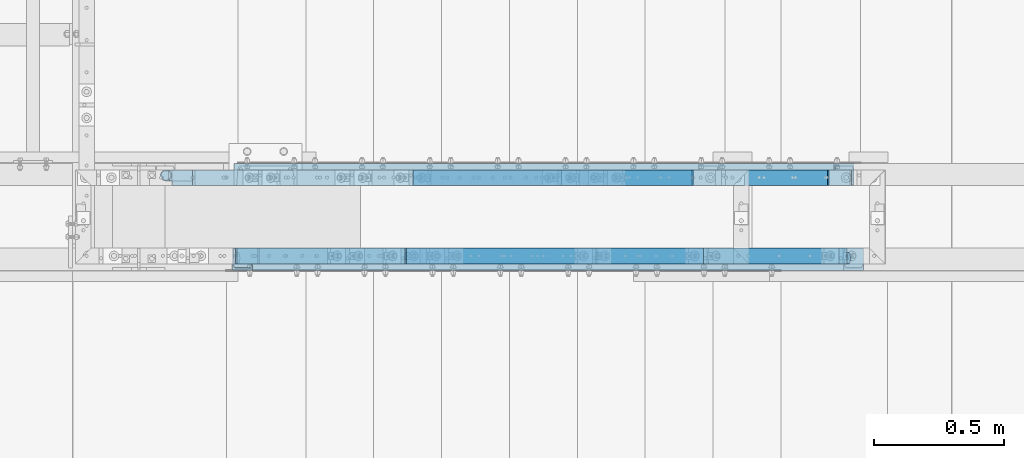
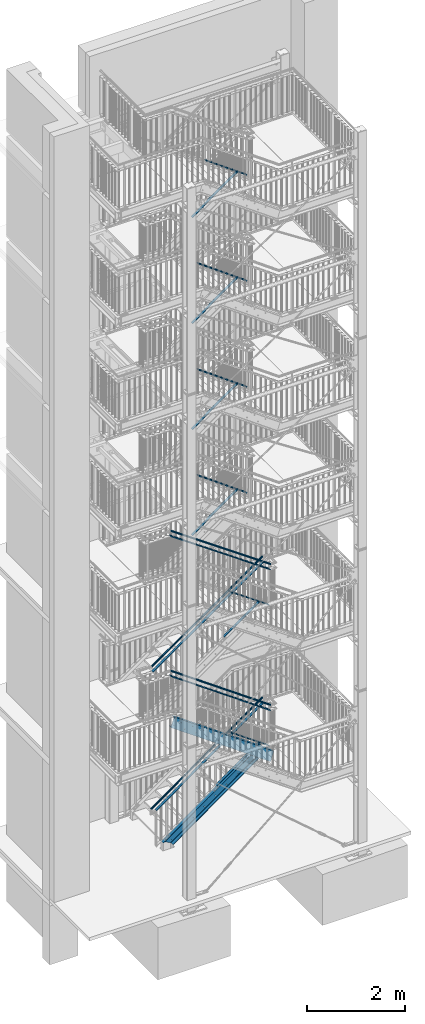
# One storey, part 122 of 825: 22 members, 43 openings.
"""IFC2X3 building model written with IfcOpenShell, lengths in millimetres."""

from ifc_helpers import new_model, entity, si_unit, converted_unit, frame, frame_2d, origin, origin_with_axes, origin_2d, origin_2d_with_axis, place, context, project, spatial, rectangle, circle, hollow_circle, u_section, extrude, clip, halfspace, material, element, save


model = new_model("IFC2X3")

# Units and contexts
model_context = context("Model", 3, precision=1e-09, world=origin_with_axes())
ifc_project = project(units=[si_unit("LENGTHUNIT", "METRE", prefix="MILLI"), si_unit("AREAUNIT", "SQUARE_METRE"), si_unit("VOLUMEUNIT", "CUBIC_METRE"), converted_unit("PLANEANGLEUNIT", "DEGREE", entity("IfcPlaneAngleMeasure", 0.01745329), si_unit("PLANEANGLEUNIT", "RADIAN"), dimensions=[0, 0, 0, 0, 0, 0, 0])], contexts=[model_context])

# Site, building, storey
site_placement = place(None, origin_with_axes())
site = spatial("IfcSite", under=ifc_project, at=site_placement, Name="Cnopf'sche Kinderklinik", CompositionType="ELEMENT")
building_placement = place(site_placement, origin_with_axes())
building = spatial("IfcBuilding", under=site, at=building_placement, Name="Struktur 1", CompositionType="ELEMENT")
storey_placement = place(building_placement, origin_with_axes())
storey = spatial("IfcBuildingStorey", under=building, at=storey_placement, Name="Default Storey", CompositionType="ELEMENT", Elevation=0.0)

# Member, openings
ifc_material = material(Name="S235JR")
member_1_placement = place(None, frame((5064.64560131, 6124.436971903, 285.297508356), z_axis=(-0.814635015, 0.0, -0.579973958), x_axis=(0.0, -1.0, 0.0)))
member_1 = element("IfcMember", 1, at=member_1_placement, inside=storey, material=ifc_material, Name="Stringer#2", ObjectType="Stringer#2", context=model_context, shape_type="Clipping", body=[
    clip(clip(extrude(u_section(Depth=240.0, FlangeWidth=85.0, WebThickness=9.5, FlangeThickness=13.0, FilletRadius=13.0, EdgeRadius=6.5, FlangeSlope=4.574, at=frame_2d((20.2, 0.0))), origin(), (0.0, 0.0, -1.0), 3359.765077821), halfspace(frame((6124.436971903, 321.948595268, -3164.680907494), z_axis=(0.0, 0.304437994, 0.952532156), x_axis=(1.0, 0.0, 0.0)), True)), halfspace(frame((6124.436971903, 4023.331766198, 1734.317054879), z_axis=(0.0, 0.458271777, -0.888812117), x_axis=(-1.0, 0.0, 0.0)), True)),
])
opening_1_placement = place(member_1_placement, frame((-22.8, 54.89598563, -931.59025728), z_axis=(1.0, 0.0, 0.0), x_axis=(0.0, -0.579973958, -0.814635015)))
element("IfcOpeningElement", 2, at=opening_1_placement, cuts=member_1, ObjectType="Opening", context=model_context, shape_type="SweptSolid", body=[
    extrude(circle(Radius=7.001, at=origin_2d_with_axis()), origin(), (0.0, 0.0, 1.0), 10.5),
])
opening_2_placement = place(member_1_placement, frame((-22.8, -49.49932673, -2674.031240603), z_axis=(1.0, 0.0, 0.0), x_axis=(0.0, -0.579973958, -0.814635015)))
element("IfcOpeningElement", 3, at=opening_2_placement, cuts=member_1, ObjectType="Opening", context=model_context, shape_type="SweptSolid", body=[
    extrude(circle(Radius=7.001, at=origin_2d_with_axis()), origin(), (0.0, 0.0, 1.0), 10.5),
])
opening_3_placement = place(member_1_placement, frame((-22.8, -49.49932673, -1397.385896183), z_axis=(1.0, 0.0, 0.0), x_axis=(0.0, -0.579973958, -0.814635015)))
element("IfcOpeningElement", 4, at=opening_3_placement, cuts=member_1, ObjectType="Opening", context=model_context, shape_type="SweptSolid", body=[
    extrude(circle(Radius=7.001, at=origin_2d_with_axis()), origin(), (0.0, 0.0, 1.0), 10.5),
])
opening_4_placement = place(member_1_placement, frame((-22.8, 54.89598563, -612.428921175), z_axis=(1.0, 0.0, 0.0), x_axis=(0.0, -0.579973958, -0.814635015)))
element("IfcOpeningElement", 5, at=opening_4_placement, cuts=member_1, ObjectType="Opening", context=model_context, shape_type="SweptSolid", body=[
    extrude(circle(Radius=7.001, at=origin_2d_with_axis()), origin(), (0.0, 0.0, 1.0), 10.5),
])
opening_5_placement = place(member_1_placement, frame((-22.8, 54.89598563, -2208.2356017), z_axis=(1.0, 0.0, 0.0), x_axis=(0.0, -0.579973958, -0.814635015)))
element("IfcOpeningElement", 6, at=opening_5_placement, cuts=member_1, ObjectType="Opening", context=model_context, shape_type="SweptSolid", body=[
    extrude(circle(Radius=7.001, at=origin_2d_with_axis()), origin(), (0.0, 0.0, 1.0), 10.5),
])
opening_6_placement = place(member_1_placement, frame((-22.8, -49.49932673, -1078.224560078), z_axis=(1.0, 0.0, 0.0), x_axis=(0.0, -0.579973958, -0.814635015)))
element("IfcOpeningElement", 7, at=opening_6_placement, cuts=member_1, ObjectType="Opening", context=model_context, shape_type="SweptSolid", body=[
    extrude(circle(Radius=7.001, at=origin_2d_with_axis()), origin(), (0.0, 0.0, 1.0), 10.5),
])
opening_7_placement = place(member_1_placement, frame((-22.8, -49.49932673, -1716.547232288), z_axis=(1.0, 0.0, 0.0), x_axis=(0.0, -0.579973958, -0.814635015)))
element("IfcOpeningElement", 8, at=opening_7_placement, cuts=member_1, ObjectType="Opening", context=model_context, shape_type="SweptSolid", body=[
    extrude(circle(Radius=7.001, at=origin_2d_with_axis()), origin(), (0.0, 0.0, 1.0), 10.5),
])
opening_8_placement = place(member_1_placement, frame((-22.8, -49.49932673, -2993.192576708), z_axis=(1.0, 0.0, 0.0), x_axis=(0.0, -0.579973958, -0.814635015)))
element("IfcOpeningElement", 9, at=opening_8_placement, cuts=member_1, ObjectType="Opening", context=model_context, shape_type="SweptSolid", body=[
    extrude(circle(Radius=7.001, at=origin_2d_with_axis()), origin(), (0.0, 0.0, 1.0), 10.5),
])
opening_9_placement = place(member_1_placement, frame((-22.8, -49.49932673, -439.901887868), z_axis=(1.0, 0.0, 0.0), x_axis=(0.0, -0.579973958, -0.814635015)))
element("IfcOpeningElement", 10, at=opening_9_placement, cuts=member_1, ObjectType="Opening", context=model_context, shape_type="SweptSolid", body=[
    extrude(circle(Radius=7.001, at=origin_2d_with_axis()), origin(), (0.0, 0.0, 1.0), 10.5),
])
opening_10_placement = place(member_1_placement, frame((-22.8, 54.89598563, -2527.396937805), z_axis=(1.0, 0.0, 0.0), x_axis=(0.0, -0.579973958, -0.814635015)))
element("IfcOpeningElement", 11, at=opening_10_placement, cuts=member_1, ObjectType="Opening", context=model_context, shape_type="SweptSolid", body=[
    extrude(circle(Radius=7.001, at=origin_2d_with_axis()), origin(), (0.0, 0.0, 1.0), 10.5),
])
opening_11_placement = place(member_1_placement, frame((-22.8, -49.49932673, -2354.869904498), z_axis=(1.0, 0.0, 0.0), x_axis=(0.0, -0.579973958, -0.814635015)))
element("IfcOpeningElement", 12, at=opening_11_placement, cuts=member_1, ObjectType="Opening", context=model_context, shape_type="SweptSolid", body=[
    extrude(circle(Radius=7.001, at=origin_2d_with_axis()), origin(), (0.0, 0.0, 1.0), 10.5),
])
opening_12_placement = place(member_1_placement, frame((-22.8, 54.89598563, -1889.074265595), z_axis=(1.0, 0.0, 0.0), x_axis=(0.0, -0.579973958, -0.814635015)))
element("IfcOpeningElement", 13, at=opening_12_placement, cuts=member_1, ObjectType="Opening", context=model_context, shape_type="SweptSolid", body=[
    extrude(circle(Radius=7.001, at=origin_2d_with_axis()), origin(), (0.0, 0.0, 1.0), 10.5),
])
opening_13_placement = place(member_1_placement, frame((-22.8, -49.49932673, -2035.708568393), z_axis=(1.0, 0.0, 0.0), x_axis=(0.0, -0.579973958, -0.814635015)))
element("IfcOpeningElement", 14, at=opening_13_placement, cuts=member_1, ObjectType="Opening", context=model_context, shape_type="SweptSolid", body=[
    extrude(circle(Radius=7.001, at=origin_2d_with_axis()), origin(), (0.0, 0.0, 1.0), 10.5),
])
opening_14_placement = place(member_1_placement, frame((-22.8, 54.89598563, -2846.55827391), z_axis=(1.0, 0.0, 0.0), x_axis=(0.0, -0.579973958, -0.814635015)))
element("IfcOpeningElement", 15, at=opening_14_placement, cuts=member_1, ObjectType="Opening", context=model_context, shape_type="SweptSolid", body=[
    extrude(circle(Radius=7.001, at=origin_2d_with_axis()), origin(), (0.0, 0.0, 1.0), 10.5),
])
opening_15_placement = place(member_1_placement, frame((-22.8, -49.49932673, -759.063223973), z_axis=(1.0, 0.0, 0.0), x_axis=(0.0, -0.579973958, -0.814635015)))
element("IfcOpeningElement", 16, at=opening_15_placement, cuts=member_1, ObjectType="Opening", context=model_context, shape_type="SweptSolid", body=[
    extrude(circle(Radius=7.001, at=origin_2d_with_axis()), origin(), (0.0, 0.0, 1.0), 10.5),
])
opening_16_placement = place(member_1_placement, frame((-22.8, 54.89598563, -1250.751593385), z_axis=(1.0, 0.0, 0.0), x_axis=(0.0, -0.579973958, -0.814635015)))
element("IfcOpeningElement", 17, at=opening_16_placement, cuts=member_1, ObjectType="Opening", context=model_context, shape_type="SweptSolid", body=[
    extrude(circle(Radius=7.001, at=origin_2d_with_axis()), origin(), (0.0, 0.0, 1.0), 10.5),
])
opening_17_placement = place(member_1_placement, frame((-22.8, 54.89598563, -1569.91292949), z_axis=(1.0, 0.0, 0.0), x_axis=(0.0, -0.579973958, -0.814635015)))
element("IfcOpeningElement", 18, at=opening_17_placement, cuts=member_1, ObjectType="Opening", context=model_context, shape_type="SweptSolid", body=[
    extrude(circle(Radius=7.001, at=origin_2d_with_axis()), origin(), (0.0, 0.0, 1.0), 10.5),
])
opening_18_placement = place(member_1_placement, frame((32.7, 120.5, -458.116797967), z_axis=(0.0, 1.0, 0.0), x_axis=(-1.0, 0.0, 0.0)))
element("IfcOpeningElement", 19, at=opening_18_placement, cuts=member_1, ObjectType="Opening", context=model_context, shape_type="SweptSolid", body=[
    extrude(circle(Radius=7.001, at=frame_2d((0.0, -7.001), x_axis=(1.0, 0.0))), origin(), (0.0, 0.0, -1.0), 14.0),
])
opening_19_placement = place(member_1_placement, frame((32.7, 120.5, -358.116797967), z_axis=(0.0, 1.0, 0.0), x_axis=(-1.0, 0.0, 0.0)))
element("IfcOpeningElement", 20, at=opening_19_placement, cuts=member_1, ObjectType="Opening", context=model_context, shape_type="SweptSolid", body=[
    extrude(circle(Radius=7.001, at=frame_2d((0.0, -7.001), x_axis=(1.0, 0.0))), origin(), (0.0, 0.0, -1.0), 14.0),
])
opening_20_placement = place(member_1_placement, frame((32.7, 120.5, -1866.722821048), z_axis=(0.0, 1.0, 0.0), x_axis=(-1.0, 0.0, 0.0)))
element("IfcOpeningElement", 21, at=opening_20_placement, cuts=member_1, ObjectType="Opening", context=model_context, shape_type="SweptSolid", body=[
    extrude(circle(Radius=7.001, at=frame_2d((0.0, -7.001), x_axis=(1.0, 0.0))), origin(), (0.0, 0.0, -1.0), 14.0),
])
opening_21_placement = place(member_1_placement, frame((32.7, 120.5, -1766.722821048), z_axis=(0.0, 1.0, 0.0), x_axis=(-1.0, 0.0, 0.0)))
element("IfcOpeningElement", 22, at=opening_21_placement, cuts=member_1, ObjectType="Opening", context=model_context, shape_type="SweptSolid", body=[
    extrude(circle(Radius=7.001, at=frame_2d((0.0, -7.001), x_axis=(1.0, 0.0))), origin(), (0.0, 0.0, -1.0), 14.0),
])

# Members
member_2_placement = place(None, frame((4933.622473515, 6100.536971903, 1439.321699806), z_axis=(-0.814635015, 0.0, -0.579973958), x_axis=(0.579973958, 0.0, -0.814635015)))
element("IfcMember", 23, at=member_2_placement, inside=storey, material=ifc_material, Name="Gel?nder", ObjectType="Gel?nder", context=model_context, shape_type="Clipping", body=[
    clip(clip(extrude(hollow_circle(Radius=21.2, WallThickness=3.2, at=origin_2d()), origin(), (0.0, 0.0, -1.0), 3275.984752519), halfspace(frame((816.100663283, 6100.536971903, -2983.675065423), z_axis=(-0.304437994, 0.0, 0.952532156), x_axis=(0.0, 1.0, 0.0)), True)), halfspace(frame((-3324.976639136, 6100.536971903, 1680.625855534), z_axis=(-0.458271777, 0.0, -0.888812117), x_axis=(0.0, -1.0, 0.0)), True)),
])
member_3_placement = place(None, frame((6479.613983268, 6091.736971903, 1519.770361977), z_axis=(-0.814635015, 0.0, -0.579973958), x_axis=(0.579973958, 0.0, -0.814635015)))
element("IfcMember", 24, at=member_3_placement, inside=storey, material=ifc_material, Name="Railing_Kneerail_Stair#2", ObjectType="Railing_Kneerail_Stair#2", context=model_context, shape_type="SweptSolid", body=[
    extrude(rectangle(XDim=10.0, YDim=60.0, at=origin_2d()), origin(), (0.0, 0.0, -1.0), 1250.668990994),
])
member_4_placement = place(None, frame((4950.988825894, 6100.536971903, 4968.914684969), z_axis=(-0.818063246, 0.0, -0.575128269), x_axis=(0.575128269, 0.0, -0.818063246)))
element("IfcMember", 25, at=member_4_placement, inside=storey, material=ifc_material, Name="Gel?nder", ObjectType="Gel?nder", context=model_context, shape_type="Clipping", body=[
    clip(clip(extrude(hollow_circle(Radius=21.2, WallThickness=3.2, at=origin_2d()), origin(), (0.0, 0.0, -1.0), 3241.129789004), halfspace(frame((4016.163485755, 6100.536971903, -1939.205143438), z_axis=(-0.301609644, 0.0, 0.953431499), x_axis=(0.0, 1.0, 0.0)), True)), halfspace(frame((3102.216720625, 6100.536971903, 949.912137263), z_axis=(0.301609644, 0.0, -0.953431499), x_axis=(0.0, -1.0, 0.0)), True)),
])
member_5_placement = place(None, frame((6655.422711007, 6091.736971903, 5146.649770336), z_axis=(-0.818063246, 0.0, -0.575128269), x_axis=(0.575128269, 0.0, -0.818063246)))
element("IfcMember", 26, at=member_5_placement, inside=storey, material=ifc_material, Name="Railing_Kneerail_Stair#4", ObjectType="Railing_Kneerail_Stair#4", context=model_context, shape_type="SweptSolid", body=[
    extrude(rectangle(XDim=10.0, YDim=60.0, at=origin_2d()), origin(), (0.0, 0.0, -1.0), 1029.91856601),
])
member_6_placement = place(None, frame((5909.643631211, 6091.736971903, 7926.792537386), z_axis=(-0.810350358, 0.0, -0.585945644), x_axis=(0.585945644, 0.0, -0.810350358)))
element("IfcMember", 27, at=member_6_placement, inside=storey, material=ifc_material, Name="Railing_Kneerail_Stair#3", ObjectType="Railing_Kneerail_Stair#3", context=model_context, shape_type="SweptSolid", body=[
    extrude(rectangle(XDim=10.0, YDim=60.0, at=origin_2d()), origin(), (0.0, 0.0, -1.0), 1319.677384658),
])
member_7_placement = place(None, frame((5909.639972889, 6091.736971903, 10557.813258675), z_axis=(-0.810878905, 0.0, -0.585213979), x_axis=(0.585213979, 0.0, -0.810878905)))
element("IfcMember", 28, at=member_7_placement, inside=storey, material=ifc_material, Name="Railing_Kneerail_Stair#3", ObjectType="Railing_Kneerail_Stair#3", context=model_context, shape_type="SweptSolid", body=[
    extrude(rectangle(XDim=10.0, YDim=60.0, at=origin_2d()), origin(), (0.0, 0.0, -1.0), 1318.733255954),
])
member_8_placement = place(None, frame((5909.645822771, 6091.736971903, 13186.380138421), z_axis=(-0.810033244, 0.0, -0.586383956), x_axis=(0.586383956, 0.0, -0.810033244)))
element("IfcMember", 29, at=member_8_placement, inside=storey, material=ifc_material, Name="Railing_Kneerail_Stair#3", ObjectType="Railing_Kneerail_Stair#3", context=model_context, shape_type="SweptSolid", body=[
    extrude(rectangle(XDim=10.0, YDim=60.0, at=origin_2d()), origin(), (0.0, 0.0, -1.0), 1320.244219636),
])
member_9_placement = place(None, frame((5909.634839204, 6091.736971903, 15818.442386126), z_axis=(-0.811618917, 0.0, -0.584187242), x_axis=(0.584187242, 0.0, -0.811618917)))
element("IfcMember", 30, at=member_9_placement, inside=storey, material=ifc_material, Name="Railing_Kneerail_Stair#3", ObjectType="Railing_Kneerail_Stair#3", context=model_context, shape_type="SweptSolid", body=[
    extrude(rectangle(XDim=10.0, YDim=60.0, at=origin_2d()), origin(), (0.0, 0.0, -1.0), 1317.412728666),
])
member_10_placement = place(None, frame((7602.354363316, 5782.936971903, 3302.79772078), z_axis=(0.814635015, 0.0, -0.579973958), x_axis=(-0.579973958, 0.0, -0.814635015)))
element("IfcMember", 31, at=member_10_placement, inside=storey, material=ifc_material, Name="Gel?nder", ObjectType="Gel?nder", context=model_context, shape_type="Clipping", body=[
    clip(clip(extrude(hollow_circle(Radius=21.2, WallThickness=3.2, at=origin_2d()), origin(), (0.0, 0.0, -1.0), 2935.40281845), halfspace(frame((5210.397729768, -5782.936971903, 1633.814350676), z_axis=(0.304437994, 0.0, -0.952532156), x_axis=(0.0, -1.0, 0.0)), True)), halfspace(frame((6043.370805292, -5782.936971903, -972.409756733), z_axis=(-0.304437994, 0.0, 0.952532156), x_axis=(0.0, 1.0, 0.0)), True)),
])
member_11_placement = place(None, frame((7536.314533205, 5791.736971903, 2329.604670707), z_axis=(0.814635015, 0.0, -0.579973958), x_axis=(-0.579973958, 0.0, -0.814635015)))
element("IfcMember", 32, at=member_11_placement, inside=storey, material=ifc_material, Name="Railing_Kneerail_Stair#2", ObjectType="Railing_Kneerail_Stair#2", context=model_context, shape_type="SweptSolid", body=[
    extrude(rectangle(XDim=10.0, YDim=60.0, at=origin_2d()), origin(), (0.0, 0.0, -1.0), 1134.496524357),
])
member_12_placement = place(None, frame((7602.437980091, 5782.936971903, 6796.809421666), z_axis=(0.818063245, 0.0, -0.57512827), x_axis=(-0.57512827, 0.0, -0.818063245)))
element("IfcMember", 33, at=member_12_placement, inside=storey, material=ifc_material, Name="Gel?nder", ObjectType="Gel?nder", context=model_context, shape_type="Clipping", body=[
    clip(clip(extrude(hollow_circle(Radius=21.2, WallThickness=3.2, at=origin_2d()), origin(), (0.0, 0.0, -1.0), 2923.30595161), halfspace(frame((9196.298185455, -5782.936971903, 17.308609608), z_axis=(-0.301609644, 0.0, 0.953431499), x_axis=(0.0, 1.0, 0.0)), True)), halfspace(frame((8373.746157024, -5782.936971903, 2617.513971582), z_axis=(0.301609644, 0.0, -0.953431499), x_axis=(0.0, -1.0, 0.0)), True)),
])
member_13_placement = place(None, frame((7536.338761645, 5791.736971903, 5822.735540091), z_axis=(0.818063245, 0.0, -0.57512827), x_axis=(-0.57512827, 0.0, -0.818063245)))
element("IfcMember", 34, at=member_13_placement, inside=storey, material=ifc_material, Name="Railing_Kneerail_Stair#2", ObjectType="Railing_Kneerail_Stair#2", context=model_context, shape_type="SweptSolid", body=[
    extrude(rectangle(XDim=10.0, YDim=60.0, at=origin_2d()), origin(), (0.0, 0.0, -1.0), 1129.801461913),
])
member_14_placement = place(None, frame((7016.284674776, 5791.736971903, 8785.445298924), z_axis=(0.810350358, 0.0, -0.585945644), x_axis=(-0.585945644, 0.0, -0.810350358)))
element("IfcMember", 35, at=member_14_placement, inside=storey, material=ifc_material, Name="Railing_Kneerail_Stair#2", ObjectType="Railing_Kneerail_Stair#2", context=model_context, shape_type="SweptSolid", body=[
    extrude(rectangle(XDim=10.0, YDim=60.0, at=origin_2d()), origin(), (0.0, 0.0, -1.0), 1402.653842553),
])
member_15_placement = place(None, frame((7016.288333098, 5791.736971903, 11414.834841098), z_axis=(0.810878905, 0.0, -0.585213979), x_axis=(-0.585213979, 0.0, -0.810878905)))
element("IfcMember", 36, at=member_15_placement, inside=storey, material=ifc_material, Name="Railing_Kneerail_Stair#2", ObjectType="Railing_Kneerail_Stair#2", context=model_context, shape_type="SweptSolid", body=[
    extrude(rectangle(XDim=10.0, YDim=60.0, at=origin_2d()), origin(), (0.0, 0.0, -1.0), 1401.748587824),
])
member_16_placement = place(None, frame((7016.282483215, 5791.736971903, 14046.011607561), z_axis=(0.810033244, 0.0, -0.586383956), x_axis=(-0.586383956, 0.0, -0.810033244)))
element("IfcMember", 37, at=member_16_placement, inside=storey, material=ifc_material, Name="Railing_Kneerail_Stair#2", ObjectType="Railing_Kneerail_Stair#2", context=model_context, shape_type="SweptSolid", body=[
    extrude(rectangle(XDim=10.0, YDim=60.0, at=origin_2d()), origin(), (0.0, 0.0, -1.0), 1403.197546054),
])

# Member, openings
member_17_placement = place(None, frame((7774.802623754, 5759.036971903, 1932.719101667), z_axis=(0.814635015, 0.0, -0.579973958), x_axis=(0.0, 1.0, 0.0)))
member_17 = element("IfcMember", 38, at=member_17_placement, inside=storey, material=ifc_material, Name="Stringer#2", ObjectType="Stringer#2", context=model_context, shape_type="Clipping", body=[
    clip(clip(extrude(u_section(Depth=240.0, FlangeWidth=85.0, WebThickness=9.5, FlangeThickness=13.0, FilletRadius=13.0, EdgeRadius=6.5, FlangeSlope=4.574, at=frame_2d((20.2, 0.0))), origin(), (0.0, 0.0, -1.0), 3391.707504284), halfspace(frame((-5759.036971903, -4072.348471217, 1080.284148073), z_axis=(0.0, -0.304437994, -0.952532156), x_axis=(-1.0, 0.0, 0.0)), True)), halfspace(frame((-5759.036971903, -4905.321546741, -1525.939959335), z_axis=(0.0, 0.304437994, 0.952532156), x_axis=(1.0, 0.0, 0.0)), True)),
])
opening_22_placement = place(member_17_placement, frame((-22.8, 54.89598563, -2240.178028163), z_axis=(1.0, 0.0, 0.0), x_axis=(0.0, -0.579973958, -0.814635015)))
element("IfcOpeningElement", 39, at=opening_22_placement, cuts=member_17, ObjectType="Opening", context=model_context, shape_type="SweptSolid", body=[
    extrude(circle(Radius=7.001, at=origin_2d_with_axis()), origin(), (0.0, 0.0, 1.0), 10.5),
])
opening_23_placement = place(member_17_placement, frame((-22.8, 54.89598563, -2559.339364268), z_axis=(1.0, 0.0, 0.0), x_axis=(0.0, -0.579973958, -0.814635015)))
element("IfcOpeningElement", 40, at=opening_23_placement, cuts=member_17, ObjectType="Opening", context=model_context, shape_type="SweptSolid", body=[
    extrude(circle(Radius=7.001, at=origin_2d_with_axis()), origin(), (0.0, 0.0, 1.0), 10.5),
])
opening_24_placement = place(member_17_placement, frame((-22.8, 54.89598563, -1601.855355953), z_axis=(1.0, 0.0, 0.0), x_axis=(0.0, -0.579973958, -0.814635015)))
element("IfcOpeningElement", 41, at=opening_24_placement, cuts=member_17, ObjectType="Opening", context=model_context, shape_type="SweptSolid", body=[
    extrude(circle(Radius=7.001, at=origin_2d_with_axis()), origin(), (0.0, 0.0, 1.0), 10.5),
])
opening_25_placement = place(member_17_placement, frame((-22.8, -49.49932673, -2386.812330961), z_axis=(1.0, 0.0, 0.0), x_axis=(0.0, -0.579973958, -0.814635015)))
element("IfcOpeningElement", 42, at=opening_25_placement, cuts=member_17, ObjectType="Opening", context=model_context, shape_type="SweptSolid", body=[
    extrude(circle(Radius=7.001, at=origin_2d_with_axis()), origin(), (0.0, 0.0, 1.0), 10.5),
])
opening_26_placement = place(member_17_placement, frame((-22.8, 54.89598563, -644.371347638), z_axis=(1.0, 0.0, 0.0), x_axis=(0.0, -0.579973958, -0.814635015)))
element("IfcOpeningElement", 43, at=opening_26_placement, cuts=member_17, ObjectType="Opening", context=model_context, shape_type="SweptSolid", body=[
    extrude(circle(Radius=7.001, at=origin_2d_with_axis()), origin(), (0.0, 0.0, 1.0), 10.5),
])
opening_27_placement = place(member_17_placement, frame((-22.8, -49.49932673, -2067.650994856), z_axis=(1.0, 0.0, 0.0), x_axis=(0.0, -0.579973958, -0.814635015)))
element("IfcOpeningElement", 44, at=opening_27_placement, cuts=member_17, ObjectType="Opening", context=model_context, shape_type="SweptSolid", body=[
    extrude(circle(Radius=7.001, at=origin_2d_with_axis()), origin(), (0.0, 0.0, 1.0), 10.5),
])
opening_28_placement = place(member_17_placement, frame((-22.8, 54.89598563, -2878.500700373), z_axis=(1.0, 0.0, 0.0), x_axis=(0.0, -0.579973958, -0.814635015)))
element("IfcOpeningElement", 45, at=opening_28_placement, cuts=member_17, ObjectType="Opening", context=model_context, shape_type="SweptSolid", body=[
    extrude(circle(Radius=7.001, at=origin_2d_with_axis()), origin(), (0.0, 0.0, 1.0), 10.5),
])
opening_29_placement = place(member_17_placement, frame((-22.8, 54.89598563, -1282.694019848), z_axis=(1.0, 0.0, 0.0), x_axis=(0.0, -0.579973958, -0.814635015)))
element("IfcOpeningElement", 46, at=opening_29_placement, cuts=member_17, ObjectType="Opening", context=model_context, shape_type="SweptSolid", body=[
    extrude(circle(Radius=7.001, at=origin_2d_with_axis()), origin(), (0.0, 0.0, 1.0), 10.5),
])
opening_30_placement = place(member_17_placement, frame((-22.8, -49.49932673, -1748.489658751), z_axis=(1.0, 0.0, 0.0), x_axis=(0.0, -0.579973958, -0.814635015)))
element("IfcOpeningElement", 47, at=opening_30_placement, cuts=member_17, ObjectType="Opening", context=model_context, shape_type="SweptSolid", body=[
    extrude(circle(Radius=7.001, at=origin_2d_with_axis()), origin(), (0.0, 0.0, 1.0), 10.5),
])
opening_31_placement = place(member_17_placement, frame((-22.8, -49.49932673, -791.005650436), z_axis=(1.0, 0.0, 0.0), x_axis=(0.0, -0.579973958, -0.814635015)))
element("IfcOpeningElement", 48, at=opening_31_placement, cuts=member_17, ObjectType="Opening", context=model_context, shape_type="SweptSolid", body=[
    extrude(circle(Radius=7.001, at=origin_2d_with_axis()), origin(), (0.0, 0.0, 1.0), 10.5),
])
opening_32_placement = place(member_17_placement, frame((-22.8, -49.49932673, -1429.328322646), z_axis=(1.0, 0.0, 0.0), x_axis=(0.0, -0.579973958, -0.814635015)))
element("IfcOpeningElement", 49, at=opening_32_placement, cuts=member_17, ObjectType="Opening", context=model_context, shape_type="SweptSolid", body=[
    extrude(circle(Radius=7.001, at=origin_2d_with_axis()), origin(), (0.0, 0.0, 1.0), 10.5),
])
opening_33_placement = place(member_17_placement, frame((-22.8, -49.49932673, -3025.135003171), z_axis=(1.0, 0.0, 0.0), x_axis=(0.0, -0.579973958, -0.814635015)))
element("IfcOpeningElement", 50, at=opening_33_placement, cuts=member_17, ObjectType="Opening", context=model_context, shape_type="SweptSolid", body=[
    extrude(circle(Radius=7.001, at=origin_2d_with_axis()), origin(), (0.0, 0.0, 1.0), 10.5),
])
opening_34_placement = place(member_17_placement, frame((-22.8, -49.49932673, -2705.973667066), z_axis=(1.0, 0.0, 0.0), x_axis=(0.0, -0.579973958, -0.814635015)))
element("IfcOpeningElement", 51, at=opening_34_placement, cuts=member_17, ObjectType="Opening", context=model_context, shape_type="SweptSolid", body=[
    extrude(circle(Radius=7.001, at=origin_2d_with_axis()), origin(), (0.0, 0.0, 1.0), 10.5),
])
opening_35_placement = place(member_17_placement, frame((-22.8, 54.89598563, -963.532683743), z_axis=(1.0, 0.0, 0.0), x_axis=(0.0, -0.579973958, -0.814635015)))
element("IfcOpeningElement", 52, at=opening_35_placement, cuts=member_17, ObjectType="Opening", context=model_context, shape_type="SweptSolid", body=[
    extrude(circle(Radius=7.001, at=origin_2d_with_axis()), origin(), (0.0, 0.0, 1.0), 10.5),
])
opening_36_placement = place(member_17_placement, frame((-22.8, 54.89598563, -1921.016692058), z_axis=(1.0, 0.0, 0.0), x_axis=(0.0, -0.579973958, -0.814635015)))
element("IfcOpeningElement", 53, at=opening_36_placement, cuts=member_17, ObjectType="Opening", context=model_context, shape_type="SweptSolid", body=[
    extrude(circle(Radius=7.001, at=origin_2d_with_axis()), origin(), (0.0, 0.0, 1.0), 10.5),
])
opening_37_placement = place(member_17_placement, frame((-22.8, -49.49932673, -1110.166986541), z_axis=(1.0, 0.0, 0.0), x_axis=(0.0, -0.579973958, -0.814635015)))
element("IfcOpeningElement", 54, at=opening_37_placement, cuts=member_17, ObjectType="Opening", context=model_context, shape_type="SweptSolid", body=[
    extrude(circle(Radius=7.001, at=origin_2d_with_axis()), origin(), (0.0, 0.0, 1.0), 10.5),
])
opening_38_placement = place(member_17_placement, frame((32.7, 120.5, -422.541968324), z_axis=(0.0, 1.0, 0.0), x_axis=(-1.0, 0.0, 0.0)))
element("IfcOpeningElement", 55, at=opening_38_placement, cuts=member_17, ObjectType="Opening", context=model_context, shape_type="SweptSolid", body=[
    extrude(circle(Radius=7.001, at=frame_2d((0.0, -7.001), x_axis=(1.0, 0.0))), origin(), (0.0, 0.0, -1.0), 14.0),
])
opening_39_placement = place(member_17_placement, frame((32.7, 120.5, -322.541968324), z_axis=(0.0, 1.0, 0.0), x_axis=(-1.0, 0.0, 0.0)))
element("IfcOpeningElement", 56, at=opening_39_placement, cuts=member_17, ObjectType="Opening", context=model_context, shape_type="SweptSolid", body=[
    extrude(circle(Radius=7.001, at=frame_2d((0.0, -7.001), x_axis=(1.0, 0.0))), origin(), (0.0, 0.0, -1.0), 14.0),
])
opening_40_placement = place(member_17_placement, frame((32.7, 120.5, -1582.571079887), z_axis=(0.0, 1.0, 0.0), x_axis=(-1.0, 0.0, 0.0)))
element("IfcOpeningElement", 57, at=opening_40_placement, cuts=member_17, ObjectType="Opening", context=model_context, shape_type="SweptSolid", body=[
    extrude(circle(Radius=7.001, at=frame_2d((0.0, -7.001), x_axis=(1.0, 0.0))), origin(), (0.0, 0.0, -1.0), 14.0),
])
opening_41_placement = place(member_17_placement, frame((32.7, 120.5, -1482.571079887), z_axis=(0.0, 1.0, 0.0), x_axis=(-1.0, 0.0, 0.0)))
element("IfcOpeningElement", 58, at=opening_41_placement, cuts=member_17, ObjectType="Opening", context=model_context, shape_type="SweptSolid", body=[
    extrude(circle(Radius=7.001, at=frame_2d((0.0, -7.001), x_axis=(1.0, 0.0))), origin(), (0.0, 0.0, -1.0), 14.0),
])
opening_42_placement = place(member_17_placement, frame((32.7, 120.5, -2742.60019145), z_axis=(0.0, 1.0, 0.0), x_axis=(-1.0, 0.0, 0.0)))
element("IfcOpeningElement", 59, at=opening_42_placement, cuts=member_17, ObjectType="Opening", context=model_context, shape_type="SweptSolid", body=[
    extrude(circle(Radius=7.001, at=frame_2d((0.0, -7.001), x_axis=(1.0, 0.0))), origin(), (0.0, 0.0, -1.0), 14.0),
])
opening_43_placement = place(member_17_placement, frame((32.7, 120.5, -2642.60019145), z_axis=(0.0, 1.0, 0.0), x_axis=(-1.0, 0.0, 0.0)))
element("IfcOpeningElement", 60, at=opening_43_placement, cuts=member_17, ObjectType="Opening", context=model_context, shape_type="SweptSolid", body=[
    extrude(circle(Radius=7.001, at=frame_2d((0.0, -7.001), x_axis=(1.0, 0.0))), origin(), (0.0, 0.0, -1.0), 14.0),
])

# Members
member_18_placement = place(None, frame((7016.293466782, 5791.736971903, 16673.180317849), z_axis=(0.811618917, 0.0, -0.584187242), x_axis=(-0.584187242, 0.0, -0.811618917)))
element("IfcMember", 61, at=member_18_placement, inside=storey, material=ifc_material, Name="Railing_Kneerail_Stair#2", ObjectType="Railing_Kneerail_Stair#2", context=model_context, shape_type="SweptSolid", body=[
    extrude(rectangle(XDim=10.0, YDim=60.0, at=origin_2d()), origin(), (0.0, 0.0, -1.0), 1195.645342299),
])
member_19_placement = place(None, frame((7567.131328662, 5791.736971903, 6689.604420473), z_axis=(0.818063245, 0.0, -0.57512827), x_axis=(-0.57512827, 0.0, -0.818063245)))
element("IfcMember", 62, at=member_19_placement, inside=storey, material=ifc_material, Name="Railing_Kneerail_Stair#1004", ObjectType="Railing_Kneerail_Stair#1004", context=model_context, shape_type="SweptSolid", body=[
    extrude(rectangle(XDim=10.0, YDim=60.0, at=origin_2d()), origin(), (0.0, 0.0, -1.0), 2857.25112589),
])
member_20_placement = place(None, frame((4986.295477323, 6091.736971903, 4861.709683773), z_axis=(-0.818063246, 0.0, -0.575128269), x_axis=(0.575128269, 0.0, -0.818063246)))
element("IfcMember", 63, at=member_20_placement, inside=storey, material=ifc_material, Name="Railing_Kneerail_Stair#1004", ObjectType="Railing_Kneerail_Stair#1004", context=model_context, shape_type="SweptSolid", body=[
    extrude(rectangle(XDim=10.0, YDim=60.0, at=origin_2d()), origin(), (0.0, 0.0, -1.0), 3175.074963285),
])
member_21_placement = place(None, frame((7567.037819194, 5791.736971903, 3195.779456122), z_axis=(0.814635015, 0.0, -0.579973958), x_axis=(-0.579973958, 0.0, -0.814635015)))
element("IfcMember", 64, at=member_21_placement, inside=storey, material=ifc_material, Name="Railing_Kneerail_Stair#1004", ObjectType="Railing_Kneerail_Stair#1004", context=model_context, shape_type="SweptSolid", body=[
    extrude(rectangle(XDim=10.0, YDim=60.0, at=origin_2d()), origin(), (0.0, 0.0, -1.0), 2869.255933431),
])
member_22_placement = place(None, frame((5064.778509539, 6091.736971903, 1400.5357212), z_axis=(-0.814635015, 0.0, -0.579973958), x_axis=(0.579973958, 0.0, -0.814635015)))
element("IfcMember", 65, at=member_22_placement, inside=storey, material=ifc_material, Name="Railing_Kneerail_Stair#1000", ObjectType="Railing_Kneerail_Stair#1000", context=model_context, shape_type="SweptSolid", body=[
    extrude(rectangle(XDim=10.0, YDim=60.0, at=origin_2d()), origin(), (0.0, 0.0, -1.0), 3092.190712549),
])

save(model, "model.ifc")
